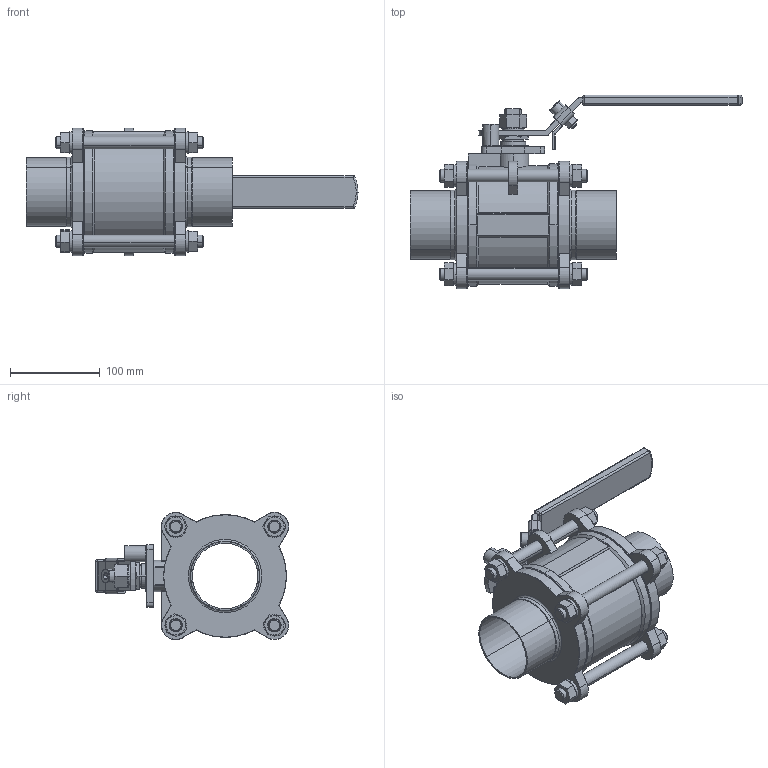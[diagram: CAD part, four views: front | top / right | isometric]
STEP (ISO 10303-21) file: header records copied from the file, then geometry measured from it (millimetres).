
FILE_DESCRIPTION (( 'STEP AP203' ), '1' );
FILE_NAME ('BAV-W-3.0.STEP', '2019-06-17T06:11:09', ( '' ), ( '' ), 'SwSTEP 2.0', 'SolidWorks 2014', '' );
FILE_SCHEMA (( 'CONFIG_CONTROL_DESIGN' ));
Length unit declared in the file: millimetre
Products named in the file (21): 2WAY-GASKET-3.0; 2WAY-HANDLE NUT-2.5-3.0; 2WAY-HANDLE-2.5-3.0-3-1; 2WAY-BOLT NUT-3.0; 2WAY-BALL-3.0; 2WAY-CAP-W-3.0; 2WAY-THRUST WASHER-2.5-3.0; 2WAY-GLAND-2.5-3.0; 2WAY-HANDLE-2.5-3.0-1; 2WAY-HANDLE-2.5-3.0; 2WAY-HANDLE-2.5-3.0-3; 2WAY-SEAT-3.0; 2WAY-HANDLE-2.5-3.0-2; 2WAY-STEM PACKINGS-3.0; 2WAY-HANDLE WASHERS-2.5-3.0; 2WAY-STOP PIN-2.5-3.0; 2WAY-BOLT-3.0; 2WAY-STEM-2.5-3.0; 2WAY-BOLT WASHERS-3.0; BAV-W-3.0; 2WAY-BODY-3.0
Assembly tree (40 placements, depth 2):
  BAV-W-3.0
    2WAY-BODY-3.0
    2WAY-STEM-2.5-3.0
    2WAY-THRUST WASHER-2.5-3.0
    2WAY-BALL-3.0
    2WAY-GLAND-2.5-3.0
    2WAY-STEM PACKINGS-3.0
    2WAY-GASKET-3.0  x2
    2WAY-SEAT-3.0  x2
    2WAY-BOLT NUT-3.0  x8
    2WAY-BOLT WASHERS-3.0  x8
    2WAY-BOLT-3.0  x4
    2WAY-HANDLE WASHERS-2.5-3.0
    2WAY-HANDLE NUT-2.5-3.0
    2WAY-HANDLE-2.5-3.0
    2WAY-HANDLE-2.5-3.0-1
    2WAY-HANDLE-2.5-3.0-2
    2WAY-HANDLE-2.5-3.0-3
    2WAY-HANDLE-2.5-3.0-3-1
    2WAY-CAP-W-3.0  x2
    2WAY-STOP PIN-2.5-3.0
Bounding box: 368.91 x 214.9 x 141.4 mm (x, y, z)
Volume: 1620000.8 mm3; surface area: 507510.8 mm2
Topology: 40 solids, 40 shells, 1088 faces, 2475 edges, 1458 vertices
Faces by surface type: cylinder 415, plane 263, cone 162, torus 158, sphere 47, bspline 43
Entity records: 26242 total; most frequent: CARTESIAN_POINT 5887, DIRECTION 4032, ORIENTED_EDGE 3476, EDGE_CURVE 1738, AXIS2_PLACEMENT_3D 1707, VERTEX_POINT 1014, CIRCLE 929, EDGE_LOOP 850
